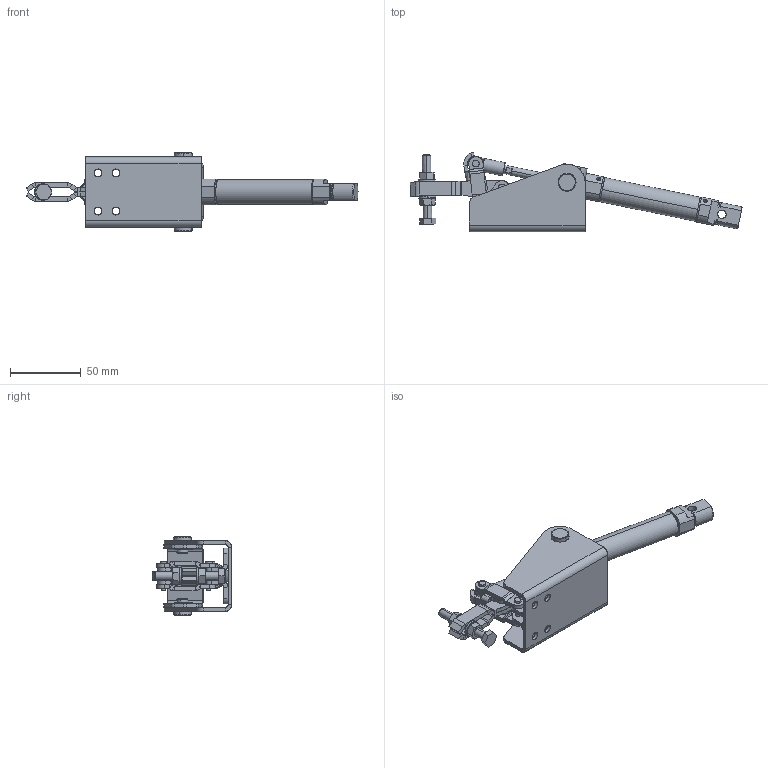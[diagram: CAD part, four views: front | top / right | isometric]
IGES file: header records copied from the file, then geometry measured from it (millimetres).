
Start section: SolidWorks IGES file using analytic representation for surfaces
Global section: file name: C:\Projetos\Grampos\KF-012 P\KF-012 DB-P\KF-012 DB-P.IGS; native system: SolidWorks 2013; preprocessor: SolidWorks 2013; author: Ricardo; date: 140828.142217; units: millimetre
Bounding box: 235.12 x 56.33 x 56 mm (x, y, z)
Surface area: 53136.6 mm2 (no closed solid volume)
Topology: 0 solids, 0 shells, 670 faces, 9242 edges, 9240 vertices
Faces by surface type: revolution 356, bspline 314
